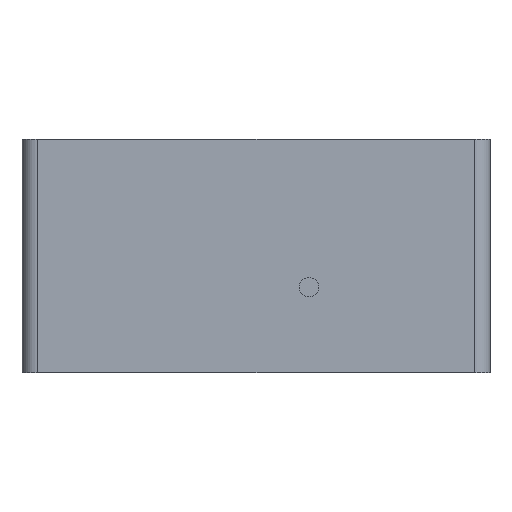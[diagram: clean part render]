
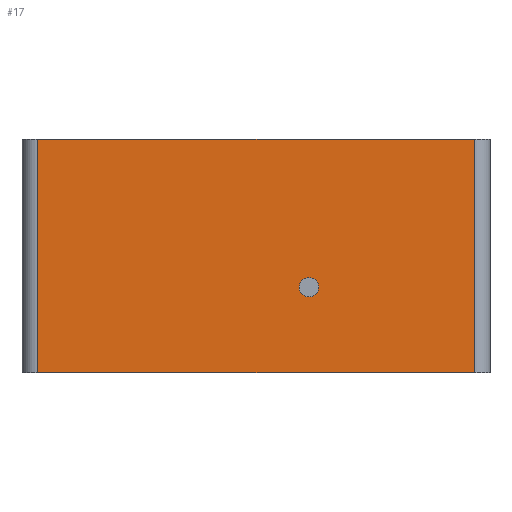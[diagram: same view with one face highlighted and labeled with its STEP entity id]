
A CAD part, left-side view. The second image highlights one B-rep face of the part: STEP entity #17.
In plain terms, the highlighted planar face has unit normal (-1, 0, 0).
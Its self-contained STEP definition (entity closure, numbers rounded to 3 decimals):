
#17 = ADVANCED_FACE('',(#18,#137),#32,.F.);
#18 = FACE_BOUND('',#19,.F.);
#19 = EDGE_LOOP('',(#20,#55,#83,#111));
#20 = ORIENTED_EDGE('',*,*,#21,.F.);
#21 = EDGE_CURVE('',#22,#24,#26,.T.);
#22 = VERTEX_POINT('',#23);
#23 = CARTESIAN_POINT('',(-110.,-56.,60.));
#24 = VERTEX_POINT('',#25);
#25 = CARTESIAN_POINT('',(-110.,56.,60.));
#26 = SURFACE_CURVE('',#27,(#31,#43),.PCURVE_S1.);
#27 = LINE('',#28,#29);
#28 = CARTESIAN_POINT('',(-110.,-60.,60.));
#29 = VECTOR('',#30,1.);
#30 = DIRECTION('',(0.,1.,0.));
#31 = PCURVE('',#32,#37);
#32 = PLANE('',#33);
#33 = AXIS2_PLACEMENT_3D('',#34,#35,#36);
#34 = CARTESIAN_POINT('',(-110.,-60.,0.));
#35 = DIRECTION('',(1.,0.,0.));
#36 = DIRECTION('',(0.,0.,1.));
#37 = DEFINITIONAL_REPRESENTATION('',(#38),#42);
#38 = LINE('',#39,#40);
#39 = CARTESIAN_POINT('',(60.,0.));
#40 = VECTOR('',#41,1.);
#41 = DIRECTION('',(0.,-1.));
#42 = ( GEOMETRIC_REPRESENTATION_CONTEXT(2) 
PARAMETRIC_REPRESENTATION_CONTEXT() REPRESENTATION_CONTEXT('2D SPACE',''
  ) );
#43 = PCURVE('',#44,#49);
#44 = PLANE('',#45);
#45 = AXIS2_PLACEMENT_3D('',#46,#47,#48);
#46 = CARTESIAN_POINT('',(-110.,-60.,60.));
#47 = DIRECTION('',(0.,0.,1.));
#48 = DIRECTION('',(1.,0.,0.));
#49 = DEFINITIONAL_REPRESENTATION('',(#50),#54);
#50 = LINE('',#51,#52);
#51 = CARTESIAN_POINT('',(0.,0.));
#52 = VECTOR('',#53,1.);
#53 = DIRECTION('',(0.,1.));
#54 = ( GEOMETRIC_REPRESENTATION_CONTEXT(2) 
PARAMETRIC_REPRESENTATION_CONTEXT() REPRESENTATION_CONTEXT('2D SPACE',''
  ) );
#55 = ORIENTED_EDGE('',*,*,#56,.F.);
#56 = EDGE_CURVE('',#57,#22,#59,.T.);
#57 = VERTEX_POINT('',#58);
#58 = CARTESIAN_POINT('',(-110.,-56.,0.));
#59 = SURFACE_CURVE('',#60,(#64,#71),.PCURVE_S1.);
#60 = LINE('',#61,#62);
#61 = CARTESIAN_POINT('',(-110.,-56.,0.));
#62 = VECTOR('',#63,1.);
#63 = DIRECTION('',(0.,0.,1.));
#64 = PCURVE('',#32,#65);
#65 = DEFINITIONAL_REPRESENTATION('',(#66),#70);
#66 = LINE('',#67,#68);
#67 = CARTESIAN_POINT('',(0.,-4.));
#68 = VECTOR('',#69,1.);
#69 = DIRECTION('',(1.,0.));
#70 = ( GEOMETRIC_REPRESENTATION_CONTEXT(2) 
PARAMETRIC_REPRESENTATION_CONTEXT() REPRESENTATION_CONTEXT('2D SPACE',''
  ) );
#71 = PCURVE('',#72,#77);
#72 = CYLINDRICAL_SURFACE('',#73,4.);
#73 = AXIS2_PLACEMENT_3D('',#74,#75,#76);
#74 = CARTESIAN_POINT('',(-106.,-56.,0.));
#75 = DIRECTION('',(0.,0.,1.));
#76 = DIRECTION('',(-1.,-0.,0.));
#77 = DEFINITIONAL_REPRESENTATION('',(#78),#82);
#78 = LINE('',#79,#80);
#79 = CARTESIAN_POINT('',(0.,0.));
#80 = VECTOR('',#81,1.);
#81 = DIRECTION('',(0.,1.));
#82 = ( GEOMETRIC_REPRESENTATION_CONTEXT(2) 
PARAMETRIC_REPRESENTATION_CONTEXT() REPRESENTATION_CONTEXT('2D SPACE',''
  ) );
#83 = ORIENTED_EDGE('',*,*,#84,.T.);
#84 = EDGE_CURVE('',#57,#85,#87,.T.);
#85 = VERTEX_POINT('',#86);
#86 = CARTESIAN_POINT('',(-110.,56.,0.));
#87 = SURFACE_CURVE('',#88,(#92,#99),.PCURVE_S1.);
#88 = LINE('',#89,#90);
#89 = CARTESIAN_POINT('',(-110.,-60.,0.));
#90 = VECTOR('',#91,1.);
#91 = DIRECTION('',(0.,1.,0.));
#92 = PCURVE('',#32,#93);
#93 = DEFINITIONAL_REPRESENTATION('',(#94),#98);
#94 = LINE('',#95,#96);
#95 = CARTESIAN_POINT('',(0.,0.));
#96 = VECTOR('',#97,1.);
#97 = DIRECTION('',(0.,-1.));
#98 = ( GEOMETRIC_REPRESENTATION_CONTEXT(2) 
PARAMETRIC_REPRESENTATION_CONTEXT() REPRESENTATION_CONTEXT('2D SPACE',''
  ) );
#99 = PCURVE('',#100,#105);
#100 = PLANE('',#101);
#101 = AXIS2_PLACEMENT_3D('',#102,#103,#104);
#102 = CARTESIAN_POINT('',(-110.,-60.,0.));
#103 = DIRECTION('',(0.,0.,1.));
#104 = DIRECTION('',(1.,0.,0.));
#105 = DEFINITIONAL_REPRESENTATION('',(#106),#110);
#106 = LINE('',#107,#108);
#107 = CARTESIAN_POINT('',(0.,0.));
#108 = VECTOR('',#109,1.);
#109 = DIRECTION('',(0.,1.));
#110 = ( GEOMETRIC_REPRESENTATION_CONTEXT(2) 
PARAMETRIC_REPRESENTATION_CONTEXT() REPRESENTATION_CONTEXT('2D SPACE',''
  ) );
#111 = ORIENTED_EDGE('',*,*,#112,.T.);
#112 = EDGE_CURVE('',#85,#24,#113,.T.);
#113 = SURFACE_CURVE('',#114,(#118,#125),.PCURVE_S1.);
#114 = LINE('',#115,#116);
#115 = CARTESIAN_POINT('',(-110.,56.,0.));
#116 = VECTOR('',#117,1.);
#117 = DIRECTION('',(0.,0.,1.));
#118 = PCURVE('',#32,#119);
#119 = DEFINITIONAL_REPRESENTATION('',(#120),#124);
#120 = LINE('',#121,#122);
#121 = CARTESIAN_POINT('',(0.,-116.));
#122 = VECTOR('',#123,1.);
#123 = DIRECTION('',(1.,0.));
#124 = ( GEOMETRIC_REPRESENTATION_CONTEXT(2) 
PARAMETRIC_REPRESENTATION_CONTEXT() REPRESENTATION_CONTEXT('2D SPACE',''
  ) );
#125 = PCURVE('',#126,#131);
#126 = CYLINDRICAL_SURFACE('',#127,4.);
#127 = AXIS2_PLACEMENT_3D('',#128,#129,#130);
#128 = CARTESIAN_POINT('',(-106.,56.,0.));
#129 = DIRECTION('',(0.,0.,1.));
#130 = DIRECTION('',(-1.,-0.,0.));
#131 = DEFINITIONAL_REPRESENTATION('',(#132),#136);
#132 = LINE('',#133,#134);
#133 = CARTESIAN_POINT('',(-0.,0.));
#134 = VECTOR('',#135,1.);
#135 = DIRECTION('',(-0.,1.));
#136 = ( GEOMETRIC_REPRESENTATION_CONTEXT(2) 
PARAMETRIC_REPRESENTATION_CONTEXT() REPRESENTATION_CONTEXT('2D SPACE',''
  ) );
#137 = FACE_BOUND('',#138,.F.);
#138 = EDGE_LOOP('',(#139));
#139 = ORIENTED_EDGE('',*,*,#140,.F.);
#140 = EDGE_CURVE('',#141,#141,#143,.T.);
#141 = VERTEX_POINT('',#142);
#142 = CARTESIAN_POINT('',(-110.,-13.57,24.5));
#143 = SURFACE_CURVE('',#144,(#149,#156),.PCURVE_S1.);
#144 = CIRCLE('',#145,2.5);
#145 = AXIS2_PLACEMENT_3D('',#146,#147,#148);
#146 = CARTESIAN_POINT('',(-110.,-13.57,22.));
#147 = DIRECTION('',(1.,0.,0.));
#148 = DIRECTION('',(-0.,0.,1.));
#149 = PCURVE('',#32,#150);
#150 = DEFINITIONAL_REPRESENTATION('',(#151),#155);
#151 = CIRCLE('',#152,2.5);
#152 = AXIS2_PLACEMENT_2D('',#153,#154);
#153 = CARTESIAN_POINT('',(22.,-46.43));
#154 = DIRECTION('',(1.,0.));
#155 = ( GEOMETRIC_REPRESENTATION_CONTEXT(2) 
PARAMETRIC_REPRESENTATION_CONTEXT() REPRESENTATION_CONTEXT('2D SPACE',''
  ) );
#156 = PCURVE('',#157,#162);
#157 = CYLINDRICAL_SURFACE('',#158,2.5);
#158 = AXIS2_PLACEMENT_3D('',#159,#160,#161);
#159 = CARTESIAN_POINT('',(-110.,-13.57,22.));
#160 = DIRECTION('',(1.,0.,0.));
#161 = DIRECTION('',(-0.,0.,1.));
#162 = DEFINITIONAL_REPRESENTATION('',(#163),#167);
#163 = LINE('',#164,#165);
#164 = CARTESIAN_POINT('',(0.,0.));
#165 = VECTOR('',#166,1.);
#166 = DIRECTION('',(1.,0.));
#167 = ( GEOMETRIC_REPRESENTATION_CONTEXT(2) 
PARAMETRIC_REPRESENTATION_CONTEXT() REPRESENTATION_CONTEXT('2D SPACE',''
  ) );
